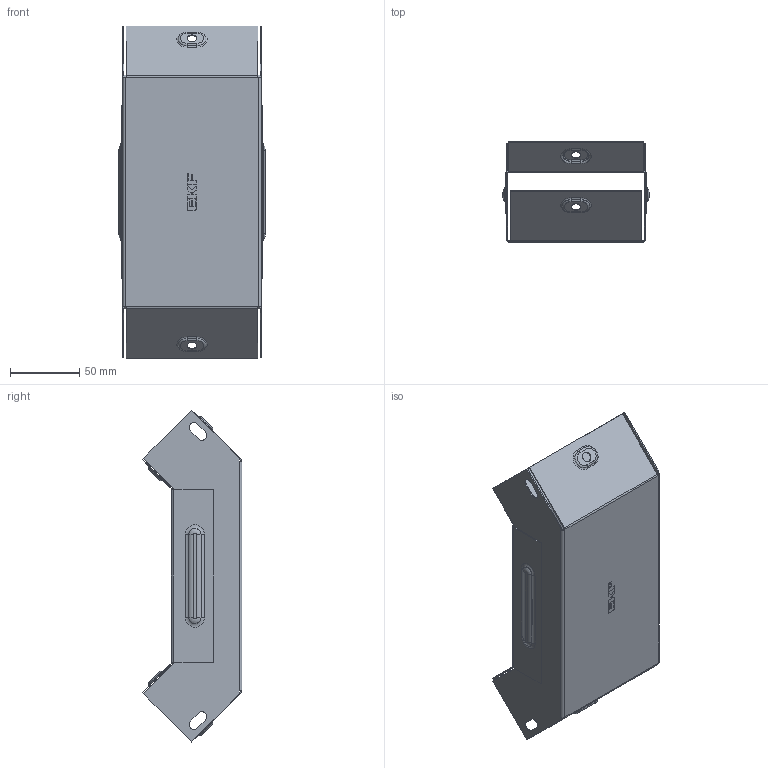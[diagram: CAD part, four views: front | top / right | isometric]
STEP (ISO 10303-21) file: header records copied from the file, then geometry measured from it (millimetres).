
FILE_DESCRIPTION (( 'STEP AP214' ), '1' );
FILE_NAME ('vi9050100_捘.STEP', '2019-06-10T09:17:18', ( '砐錪賧瘔蠈錪 Windows' ), ( '' ), 'SwSTEP 2.0', 'SolidWorks 2018', '' );
FILE_SCHEMA (( 'AUTOMOTIVE_DESIGN' ));
Length unit declared in the file: millimetre
Products named in the file (1): vi9050100_捘
Bounding box: 105.6 x 72.01 x 239.3 mm (x, y, z)
Volume: 59001.1 mm3; surface area: 149185.3 mm2
Topology: 2 solids, 2 shells, 416 faces, 1056 edges, 672 vertices
Faces by surface type: plane 222, cylinder 112, torus 64, bspline 18
Entity records: 13420 total; most frequent: CARTESIAN_POINT 3164, DIRECTION 2138, ORIENTED_EDGE 2112, EDGE_CURVE 1056, AXIS2_PLACEMENT_3D 719, LINE 700, VECTOR 700, VERTEX_POINT 672
